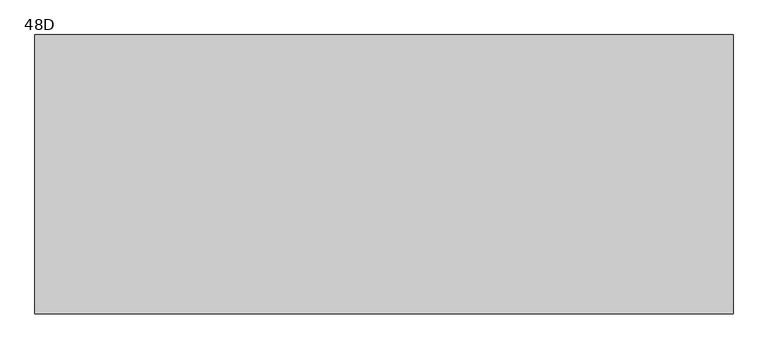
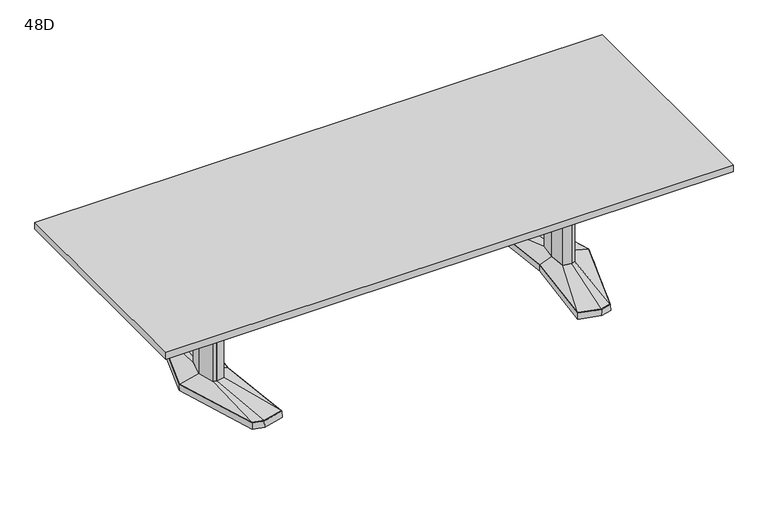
"""IFC4 building model written with IfcOpenShell, lengths in millimetres: furniture geometry, Coalesse_AM_Table_Conference_ETable2_Rectangular_10ft_AluminiumBase : 48D."""

from ifc_helpers import new_model, si_unit, frame, origin, place, context, project, spatial, polyline, outline, extrude, faceted_brep, source, transform, mapped, element, save
from ifc_brep_helpers import plane_surface, spline_surface, advanced_brep


def furniture_48d_fe408b98(model_context):
    return source(origin(), model_context, "Body", "SolidModel", [
        faceted_brep([(905.8306835, 455.5848221, 38.1), (796.2531277, 426.2263816, 38.1), (837.4163717, 0.0, 38.1), (796.2531277, -426.2263816, 38.1), (905.8306835, -455.5848221, 38.1), (961.9570396, -440.5478297, 38.1), (1099.2684269, 0.0, 38.1), (961.9570396, 440.5478297, 38.1), (905.8306754, 457.2283104, 3.175), (963.2124472, 441.8549756, 3.175), (1100.93125, 0.0, 3.175), (963.2124472, -441.8549756, 3.175), (905.8306754, -457.2283104, 3.175), (794.54375, -427.4118891, 3.175), (835.8214856, 0.0, 3.175), (794.54375, 427.4118891, 3.175), (909.420115, 428.3273875, 3.175), (804.3718228, 402.1057253, 3.175), (812.490518, 377.985069, 3.175), (913.0095466, 401.0699529, 3.175), (963.5691725, 387.524361, 3.175), (962.7631061, 414.0360954, 3.175), (909.420115, -428.3273875, 3.175), (962.7631061, -414.0360954, 3.175), (963.5691725, -387.524361, 3.175), (913.0095466, -401.0699529, 3.175), (812.490518, -377.985069, 3.175), (804.3718228, -402.1057253, 3.175), (1036.0153621, 0.0, 3.175), (1003.7459611, 120.4193755, 3.175), (955.0987222, 133.471665, 3.175), (875.2180526, 119.4176561, 3.175), (864.0868466, 0.0, 3.175), (875.2180526, -119.4176561, 3.175), (955.0987222, -133.471665, 3.175), (1003.7459611, -120.4193755, 3.175), (909.420115, 428.3273875, 0.0), (962.7631061, 414.0360954, 0.0), (963.5691725, 387.524361, 0.0), (913.0095466, 401.0699529, 0.0), (812.490518, 377.985069, 0.0), (804.3718228, 402.1057253, 0.0), (909.420115, -428.3273875, 0.0), (804.3718228, -402.1057253, 0.0), (812.490518, -377.985069, 0.0), (913.0095466, -401.0699529, 0.0), (963.5691725, -387.524361, 0.0), (962.7631061, -414.0360954, 0.0), (1036.0153621, 0.0, 0.0), (1003.7459611, -120.4193755, 0.0), (955.0987222, -133.471665, 0.0), (875.2180526, -119.4176561, 0.0), (864.0868466, 0.0, 0.0), (875.2180526, 119.4176561, 0.0), (955.0987222, 133.471665, 0.0), (1003.7459611, 120.4193755, 0.0)], [[[0, 1, 2, 3, 4, 5, 6, 7]], [[8, 9, 10, 11, 12, 13, 14, 15], [16, 17, 18, 19, 20, 21], [22, 23, 24, 25, 26, 27], [28, 29, 30, 31, 32, 33, 34, 35]], [[7, 9, 8, 0]], [[6, 10, 9, 7]], [[5, 11, 10, 6]], [[4, 12, 11, 5]], [[3, 13, 12, 4]], [[2, 14, 13, 3]], [[1, 15, 14, 2]], [[0, 8, 15, 1]], [[36, 37, 38, 39, 40, 41]], [[42, 43, 44, 45, 46, 47]], [[48, 49, 50, 51, 52, 53, 54, 55]], [[36, 16, 21, 37]], [[37, 21, 20, 38]], [[38, 20, 19, 39]], [[39, 19, 18, 40]], [[40, 18, 17, 41]], [[41, 17, 16, 36]], [[42, 22, 27, 43]], [[43, 27, 26, 44]], [[44, 26, 25, 45]], [[45, 25, 24, 46]], [[46, 24, 23, 47]], [[47, 23, 22, 42]], [[48, 28, 35, 49]], [[49, 35, 34, 50]], [[50, 34, 33, 51]], [[51, 33, 32, 52]], [[52, 32, 31, 53]], [[53, 31, 30, 54]], [[54, 30, 29, 55]], [[55, 29, 28, 48]]]),
        faceted_brep([(996.5710836, 0.0, 698.5), (972.6358546, 89.3188359, 698.5), (955.7824984, 93.8406728, 698.5), (953.3826511, 94.4845635, 698.5), (910.455146, 86.9320037, 698.5), (902.3520056, 0.0, 698.5), (910.455146, -86.9320037, 698.5), (953.3826511, -94.4845635, 698.5), (955.7824984, -93.8406728, 698.5), (972.6358546, -89.3188359, 698.5), (996.5710836, 0.0, 63.5), (972.6358546, -89.3188359, 63.5), (955.7824984, -93.8406728, 63.5), (953.3826511, -94.4845635, 63.5), (910.455146, -86.9320037, 63.5), (902.3520056, 0.0, 63.5), (910.455146, 86.9320037, 63.5), (953.3826511, 94.4845635, 63.5), (955.7824984, 93.8406728, 63.5), (972.6358546, 89.3188359, 63.5)], [[[0, 1, 2, 3, 4, 5, 6, 7, 8, 9]], [[10, 11, 12, 13, 14, 15, 16, 17, 18, 19]], [[9, 11, 10, 0]], [[8, 12, 11, 9]], [[7, 13, 12, 8]], [[6, 14, 13, 7]], [[5, 15, 14, 6]], [[4, 16, 15, 5]], [[3, 17, 16, 4]], [[2, 18, 17, 3]], [[1, 19, 18, 2]], [[0, 10, 19, 1]]]),
        advanced_brep(
        [(953.3826511, 94.4845635, 63.5), (910.455146, 86.9320037, 63.5), (902.3520056, 0.0, 63.5), (910.455146, -86.9320037, 63.5), (953.3826511, -94.4845635, 63.5), (972.6358546, -89.3188359, 63.5), (996.5710836, 0.0, 63.5), (972.6358546, 89.3188359, 63.5), (905.8306835, 455.5848221, 38.1), (961.9570396, 440.5478297, 38.1), (1099.2684269, 0.0, 38.1), (961.9570396, -440.5478297, 38.1), (905.8306835, -455.5848221, 38.1), (796.2531277, -426.2263816, 38.1), (837.4163717, 0.0, 38.1), (796.2531277, 426.2263816, 38.1)],
        [
            (0, 1),
            (1, 2),
            (2, 3),
            (3, 4),
            (4, 5),
            (5, 6),
            (6, 7),
            (7, 0),
            (8, 9),
            (9, 10),
            (10, 11),
            (11, 12),
            (12, 13),
            (13, 14),
            (14, 15),
            (15, 8),
            (8, 0),
            (7, 9),
            (6, 10),
            (5, 11),
            (4, 12),
            (3, 13),
            (2, 14),
            (1, 15),
        ],
        [
            plane_surface(frame((946.4837991, 0.0, 63.5), z_axis=(0.0, 0.0, 1.0), x_axis=(-0.25884244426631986, -0.9659195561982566, 0.0))),
            plane_surface(frame((908.0958125, 0.0, 38.1), z_axis=(0.0, 0.0, -1.0), x_axis=(-0.25884244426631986, -0.9659195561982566, 0.0))),
            spline_surface(1, 1, [[(905.8306835, 455.5848221, 38.1), (961.9570396, 440.5478297, 38.1)], [(953.3826511, 94.4845635, 63.5), (972.6358546, 89.3188359, 63.5)]], [2, 2], [2, 2], [0.0, 1.0], [0.0, 1.0]),
            spline_surface(1, 1, [[(961.9570396, 440.5478297, 38.1), (1099.2684269, 0.0, 38.1)], [(972.6358546, 89.3188359, 63.5), (996.5710836, 0.0, 63.5)]], [2, 2], [2, 2], [0.0, 1.0], [0.0, 1.0]),
            spline_surface(1, 1, [[(1099.2684269, 0.0, 38.1), (961.9570396, -440.5478297, 38.1)], [(996.5710836, 0.0, 63.5), (972.6358546, -89.3188359, 63.5)]], [2, 2], [2, 2], [0.0, 1.0], [0.0, 1.0]),
            spline_surface(1, 1, [[(961.9570396, -440.5478297, 38.1), (905.8306835, -455.5848221, 38.1)], [(972.6358546, -89.3188359, 63.5), (953.3826511, -94.4845635, 63.5)]], [2, 2], [2, 2], [0.0, 1.0], [0.0, 1.0]),
            spline_surface(1, 1, [[(905.8306835, -455.5848221, 38.1), (796.2531277, -426.2263816, 38.1)], [(953.3826511, -94.4845635, 63.5), (910.455146, -86.9320037, 63.5)]], [2, 2], [2, 2], [0.0, 1.0], [0.0, 1.0]),
            spline_surface(1, 1, [[(796.2531277, -426.2263816, 38.1), (837.4163717, 0.0, 38.1)], [(910.455146, -86.9320037, 63.5), (902.3520056, 0.0, 63.5)]], [2, 2], [2, 2], [0.0, 1.0], [0.0, 1.0]),
            spline_surface(1, 1, [[(837.4163717, 0.0, 38.1), (796.2531277, 426.2263816, 38.1)], [(902.3520056, 0.0, 63.5), (910.455146, 86.9320037, 63.5)]], [2, 2], [2, 2], [0.0, 1.0], [0.0, 1.0]),
            spline_surface(1, 1, [[(796.2531277, 426.2263816, 38.1), (905.8306835, 455.5848221, 38.1)], [(910.455146, 86.9320037, 63.5), (953.3826511, 94.4845635, 63.5)]], [2, 2], [2, 2], [0.0, 1.0], [0.0, 1.0]),
        ],
        [
            (0, [[1, 2, 3, 4, 5, 6, 7, 8]]),
            (1, [[9, 10, 11, 12, 13, 14, 15, 16]]),
            (2, [[17, -8, 18, -9]]),
            (3, [[-18, -7, 19, -10]]),
            (4, [[-19, -6, 20, -11]]),
            (5, [[-20, -5, 21, -12]]),
            (6, [[-21, -4, 22, -13]]),
            (7, [[-22, -3, 23, -14]]),
            (8, [[-23, -2, 24, -15]]),
            (9, [[-24, -1, -17, -16]]),
        ],
    ),
        faceted_brep([(-905.8306835, 455.5848221, 38.1), (-961.9570396, 440.5478297, 38.1), (-1099.2684269, 0.0, 38.1), (-961.9570396, -440.5478297, 38.1), (-905.8306835, -455.5848221, 38.1), (-796.2531277, -426.2263816, 38.1), (-837.4163717, 0.0, 38.1), (-796.2531277, 426.2263816, 38.1), (-905.8306754, 457.2283104, 3.175), (-794.54375, 427.4118891, 3.175), (-835.8214856, 0.0, 3.175), (-794.54375, -427.4118891, 3.175), (-905.8306754, -457.2283104, 3.175), (-963.2124472, -441.8549756, 3.175), (-1100.93125, 0.0, 3.175), (-963.2124472, 441.8549756, 3.175), (-909.420115, 428.3273875, 3.175), (-962.7631061, 414.0360954, 3.175), (-963.5691725, 387.524361, 3.175), (-913.0095466, 401.0699529, 3.175), (-812.490518, 377.985069, 3.175), (-804.3718228, 402.1057253, 3.175), (-909.420115, -428.3273875, 3.175), (-804.3718228, -402.1057253, 3.175), (-812.490518, -377.985069, 3.175), (-913.0095466, -401.0699529, 3.175), (-963.5691725, -387.524361, 3.175), (-962.7631061, -414.0360954, 3.175), (-1036.0153621, 0.0, 3.175), (-1003.7459611, -120.4193755, 3.175), (-955.0987222, -133.471665, 3.175), (-875.2180526, -119.4176561, 3.175), (-864.0868466, 0.0, 3.175), (-875.2180526, 119.4176561, 3.175), (-955.0987222, 133.471665, 3.175), (-1003.7459611, 120.4193755, 3.175), (-909.420115, 428.3273875, 0.0), (-804.3718228, 402.1057253, 0.0), (-812.490518, 377.985069, 0.0), (-913.0095466, 401.0699529, 0.0), (-963.5691725, 387.524361, 0.0), (-962.7631061, 414.0360954, 0.0), (-909.420115, -428.3273875, 0.0), (-962.7631061, -414.0360954, 0.0), (-963.5691725, -387.524361, 0.0), (-913.0095466, -401.0699529, 0.0), (-812.490518, -377.985069, 0.0), (-804.3718228, -402.1057253, 0.0), (-1036.0153621, 0.0, 0.0), (-1003.7459611, 120.4193755, 0.0), (-955.0987222, 133.471665, 0.0), (-875.2180526, 119.4176561, 0.0), (-864.0868466, 0.0, 0.0), (-875.2180526, -119.4176561, 0.0), (-955.0987222, -133.471665, 0.0), (-1003.7459611, -120.4193755, 0.0)], [[[0, 1, 2, 3, 4, 5, 6, 7]], [[8, 9, 10, 11, 12, 13, 14, 15], [16, 17, 18, 19, 20, 21], [22, 23, 24, 25, 26, 27], [28, 29, 30, 31, 32, 33, 34, 35]], [[1, 0, 8, 15]], [[2, 1, 15, 14]], [[3, 2, 14, 13]], [[4, 3, 13, 12]], [[5, 4, 12, 11]], [[6, 5, 11, 10]], [[7, 6, 10, 9]], [[0, 7, 9, 8]], [[36, 37, 38, 39, 40, 41]], [[42, 43, 44, 45, 46, 47]], [[48, 49, 50, 51, 52, 53, 54, 55]], [[36, 41, 17, 16]], [[41, 40, 18, 17]], [[40, 39, 19, 18]], [[39, 38, 20, 19]], [[38, 37, 21, 20]], [[37, 36, 16, 21]], [[42, 47, 23, 22]], [[47, 46, 24, 23]], [[46, 45, 25, 24]], [[45, 44, 26, 25]], [[44, 43, 27, 26]], [[43, 42, 22, 27]], [[48, 55, 29, 28]], [[55, 54, 30, 29]], [[54, 53, 31, 30]], [[53, 52, 32, 31]], [[52, 51, 33, 32]], [[51, 50, 34, 33]], [[50, 49, 35, 34]], [[49, 48, 28, 35]]]),
        faceted_brep([(-996.5710836, 0.0, 698.5), (-972.6358546, -89.3188359, 698.5), (-955.7824984, -93.8406728, 698.5), (-953.3826511, -94.4845635, 698.5), (-910.455146, -86.9320037, 698.5), (-902.3520056, 0.0, 698.5), (-910.455146, 86.9320037, 698.5), (-953.3826511, 94.4845635, 698.5), (-955.7824984, 93.8406728, 698.5), (-972.6358546, 89.3188359, 698.5), (-996.5710836, 0.0, 63.5), (-972.6358546, 89.3188359, 63.5), (-955.7824984, 93.8406728, 63.5), (-953.3826511, 94.4845635, 63.5), (-910.455146, 86.9320037, 63.5), (-902.3520056, 0.0, 63.5), (-910.455146, -86.9320037, 63.5), (-953.3826511, -94.4845635, 63.5), (-955.7824984, -93.8406728, 63.5), (-972.6358546, -89.3188359, 63.5)], [[[0, 1, 2, 3, 4, 5, 6, 7, 8, 9]], [[10, 11, 12, 13, 14, 15, 16, 17, 18, 19]], [[1, 0, 10, 19]], [[2, 1, 19, 18]], [[3, 2, 18, 17]], [[4, 3, 17, 16]], [[5, 4, 16, 15]], [[6, 5, 15, 14]], [[7, 6, 14, 13]], [[8, 7, 13, 12]], [[9, 8, 12, 11]], [[0, 9, 11, 10]]]),
        advanced_brep(
        [(-953.3826511, 94.4845635, 63.5), (-972.6358546, 89.3188359, 63.5), (-996.5710836, 0.0, 63.5), (-972.6358546, -89.3188359, 63.5), (-953.3826511, -94.4845635, 63.5), (-910.455146, -86.9320037, 63.5), (-902.3520056, 0.0, 63.5), (-910.455146, 86.9320037, 63.5), (-905.8306835, 455.5848221, 38.1), (-796.2531277, 426.2263816, 38.1), (-837.4163717, 0.0, 38.1), (-796.2531277, -426.2263816, 38.1), (-905.8306835, -455.5848221, 38.1), (-961.9570396, -440.5478297, 38.1), (-1099.2684269, 0.0, 38.1), (-961.9570396, 440.5478297, 38.1)],
        [
            (0, 1),
            (1, 2),
            (2, 3),
            (3, 4),
            (4, 5),
            (5, 6),
            (6, 7),
            (7, 0),
            (8, 9),
            (9, 10),
            (10, 11),
            (11, 12),
            (12, 13),
            (13, 14),
            (14, 15),
            (15, 8),
            (15, 1),
            (0, 8),
            (14, 2),
            (13, 3),
            (12, 4),
            (11, 5),
            (10, 6),
            (9, 7),
        ],
        [
            plane_surface(frame((-946.4837991, 0.0, 63.5), z_axis=(0.0, 0.0, 1.0), x_axis=(0.25884244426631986, -0.9659195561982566, 0.0))),
            plane_surface(frame((-908.0958125, 0.0, 38.1), z_axis=(0.0, 0.0, -1.0), x_axis=(0.25884244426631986, -0.9659195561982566, 0.0))),
            spline_surface(1, 1, [[(-905.8306835, 455.5848221, 38.1), (-953.3826511, 94.4845635, 63.5)], [(-961.9570396, 440.5478297, 38.1), (-972.6358546, 89.3188359, 63.5)]], [2, 2], [2, 2], [0.0, 1.0], [0.0, 1.0]),
            spline_surface(1, 1, [[(-961.9570396, 440.5478297, 38.1), (-972.6358546, 89.3188359, 63.5)], [(-1099.2684269, 0.0, 38.1), (-996.5710836, 0.0, 63.5)]], [2, 2], [2, 2], [0.0, 1.0], [0.0, 1.0]),
            spline_surface(1, 1, [[(-1099.2684269, 0.0, 38.1), (-996.5710836, 0.0, 63.5)], [(-961.9570396, -440.5478297, 38.1), (-972.6358546, -89.3188359, 63.5)]], [2, 2], [2, 2], [0.0, 1.0], [0.0, 1.0]),
            spline_surface(1, 1, [[(-961.9570396, -440.5478297, 38.1), (-972.6358546, -89.3188359, 63.5)], [(-905.8306835, -455.5848221, 38.1), (-953.3826511, -94.4845635, 63.5)]], [2, 2], [2, 2], [0.0, 1.0], [0.0, 1.0]),
            spline_surface(1, 1, [[(-905.8306835, -455.5848221, 38.1), (-953.3826511, -94.4845635, 63.5)], [(-796.2531277, -426.2263816, 38.1), (-910.455146, -86.9320037, 63.5)]], [2, 2], [2, 2], [0.0, 1.0], [0.0, 1.0]),
            spline_surface(1, 1, [[(-796.2531277, -426.2263816, 38.1), (-910.455146, -86.9320037, 63.5)], [(-837.4163717, 0.0, 38.1), (-902.3520056, 0.0, 63.5)]], [2, 2], [2, 2], [0.0, 1.0], [0.0, 1.0]),
            spline_surface(1, 1, [[(-837.4163717, 0.0, 38.1), (-902.3520056, 0.0, 63.5)], [(-796.2531277, 426.2263816, 38.1), (-910.455146, 86.9320037, 63.5)]], [2, 2], [2, 2], [0.0, 1.0], [0.0, 1.0]),
            spline_surface(1, 1, [[(-796.2531277, 426.2263816, 38.1), (-910.455146, 86.9320037, 63.5)], [(-905.8306835, 455.5848221, 38.1), (-953.3826511, 94.4845635, 63.5)]], [2, 2], [2, 2], [0.0, 1.0], [0.0, 1.0]),
        ],
        [
            (0, [[1, 2, 3, 4, 5, 6, 7, 8]]),
            (1, [[9, 10, 11, 12, 13, 14, 15, 16]]),
            (2, [[-16, 17, -1, 18]]),
            (3, [[-15, 19, -2, -17]]),
            (4, [[-14, 20, -3, -19]]),
            (5, [[-13, 21, -4, -20]]),
            (6, [[-12, 22, -5, -21]]),
            (7, [[-11, 23, -6, -22]]),
            (8, [[-10, 24, -7, -23]]),
            (9, [[-9, -18, -8, -24]]),
        ],
    ),
        extrude(outline(polyline([(96.8375, 698.5), (103.1875, 698.5), (103.1875, 476.25), (-103.1875, 476.25), (-103.1875, 698.5), (-96.8375, 698.5), (-96.8375, 482.6), (96.8375, 482.6), (96.8375, 698.5)])), frame((-902.49375, 0.0, 0.0), z_axis=(1.0, 0.0, 0.0), x_axis=(0.0, 1.0, 0.0)), (0.0, 0.0, 1.0), 1804.9875),
        extrude(outline(polyline([(1524.0, 609.6), (1524.0, -609.6), (-1524.0, -609.6), (-1524.0, 609.6), (1524.0, 609.6)])), frame((0.0, 0.0, 698.5), z_axis=(0.0, 0.0, 1.0), x_axis=(1.0, 0.0, 0.0)), (0.0, 0.0, 1.0), 38.1),
    ])


if __name__ == "__main__":
    model = new_model("IFC4")
    model_context = context("Model", 3, world=origin())
    ifc_project = project(units=[si_unit("LENGTHUNIT", "METRE", prefix="MILLI")], contexts=[model_context])
    site = spatial("IfcSite", under=ifc_project)
    building = spatial("IfcBuilding", under=site)
    placement = place(None, origin())
    furniture_48d_shape = furniture_48d_fe408b98(model_context)
    element("IfcFurniture", 1, ObjectType="Coalesse_AM_Table_Conference_ETable2_Rectangular_10ft_AluminiumBase : 48D", at=placement, inside=building, context=model_context, shape_type="MappedRepresentation", body=[
        mapped(furniture_48d_shape, transform((0.0, 0.0, 0.0), x_axis=(1.0, 0.0, 0.0), y_axis=(0.0, 1.0, 0.0), z_axis=(0.0, 0.0, 1.0))),
    ])
    save(model, "model.ifc")
